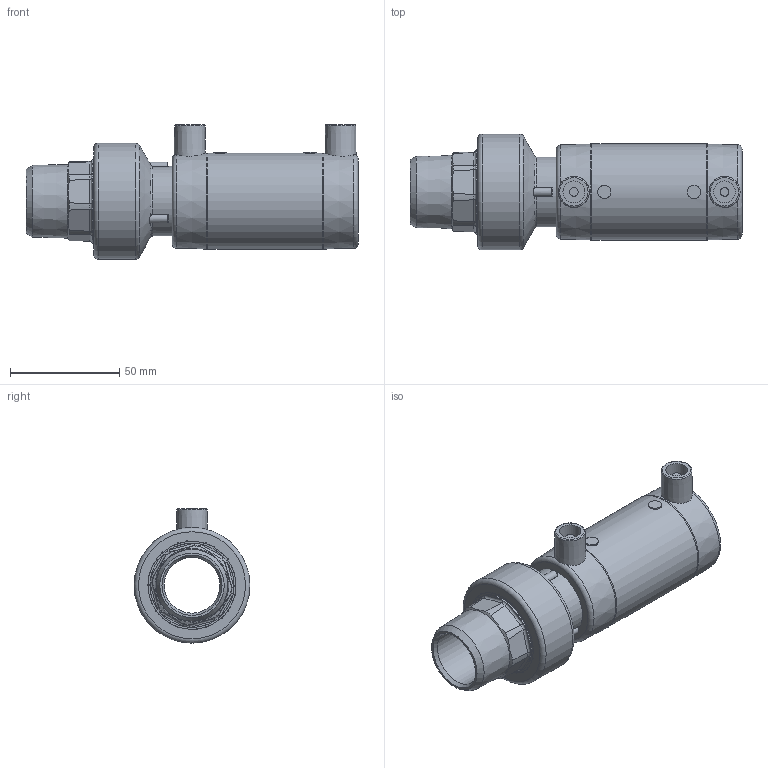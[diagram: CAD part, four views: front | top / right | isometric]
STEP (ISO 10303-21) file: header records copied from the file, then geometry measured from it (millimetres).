
FILE_DESCRIPTION(/* description */ ('Unknown'),/* implementation_level */ '2;1');
FILE_NAME(/* name */ 'MTMP032C',/* time_stamp */ '2021-05-07T09:03:44+02:00',/* author */ ('Unknown'),/* organization */ ('Unknown'),/* preprocessor_version */ 'ST-DEVELOPER v16.7',/* originating_system */ 'Solid Edge',/* authorisation */ 'Unknown');
FILE_SCHEMA (('AUTOMOTIVE_DESIGN {1 0 10303 214 3 1 1}'));
Length unit declared in the file: millimetre
Products named in the file (5): MTMP032C; MP032C; RTOMP032C; Parte PE 032; IOM032C
Assembly tree (4 placements, depth 3):
  MTMP032C
    MP032C
    RTOMP032C
      Parte PE 032
      IOM032C
Bounding box: 152 x 53 x 61.5 mm (x, y, z)
Volume: 128488.1 mm3; surface area: 58118.7 mm2
Topology: 3 solids, 3 shells, 505 faces, 1349 edges, 868 vertices
Faces by surface type: cylinder 218, plane 123, cone 72, bspline 59, torus 33
Full cylindrical faces by diameter (mm): 4 x2, 6 x2, 10 x2, 25.5 x1, 26 x1, 29.5 x2, 32 x2, 33.3 x2, 33.5 x2, 38.5 x1, 39 x2, 44 x5, 53 x1
Entity records: 19425 total; most frequent: CARTESIAN_POINT 6353, ORIENTED_EDGE 2542, DIRECTION 2096, EDGE_CURVE 1271, AXIS2_PLACEMENT_3D 942, VERTEX_POINT 845, EDGE_LOOP 584, FACE_BOUND 584
